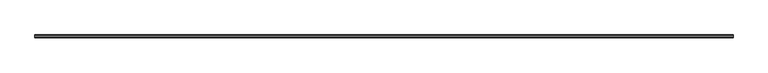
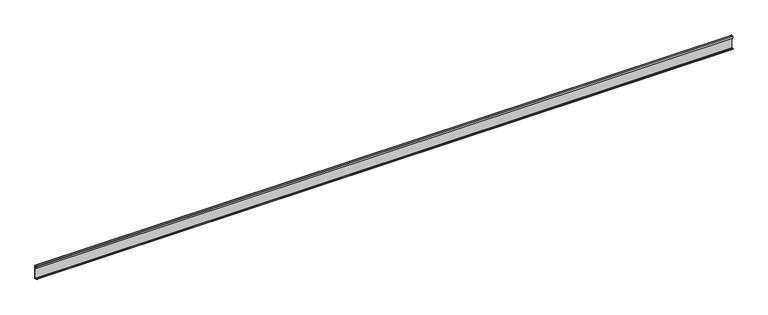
"""IFC4 building model written with IfcOpenShell, lengths in millimetres: proxy geometry, Weiku - Montante - Capa de folha 02.3.02.406 : Weiku - Montante - Capa de folha 02.3.02.406."""

from ifc_helpers import new_model, si_unit, point, frame, frame_2d, origin, place, context, project, spatial, polyline, circle_curve, trimmed, segment, composite_curve, outline, extrude, source, transform, mapped, element, save


def generic_models_7bdc018a(model_context):
    return source(origin(), model_context, "Body", "SweptSolid", [
        extrude(outline(composite_curve([segment(polyline([(-4.6421508, 2.2715508), (-3.3866, 1.016), (-1.6933, 1.016), (-1.6933, 25.684), (-3.3063, 25.684), (-3.3063, 22.3396), (-4.28, 22.3396), (-4.28, 26.2)]), True, "CONTINUOUS"), segment(trimmed(circle_curve(frame_2d((-3.78, 26.2)), 0.5), [point((-4.28, 26.2))], [point((-3.78, 26.7))], False, "CARTESIAN"), True, "CONTINUOUS"), segment(polyline([(-3.78, 26.7), (-0.5, 26.7)]), True, "CONTINUOUS"), segment(trimmed(circle_curve(frame_2d((-0.5, 26.2)), 0.5), [point((-0.5, 26.7))], [point((0.0, 26.2))], False, "CARTESIAN"), True, "CONTINUOUS"), segment(polyline([(0.0, 26.2), (0.0, 0.5)]), True, "CONTINUOUS"), segment(trimmed(circle_curve(frame_2d((-0.5, 0.5)), 0.5), [point((0.0, 0.5))], [point((-0.5, 0.0))], False, "CARTESIAN"), True, "CONTINUOUS"), segment(polyline([(-0.5, 0.0), (-4.7576991, 0.0)]), True, "CONTINUOUS"), segment(trimmed(circle_curve(frame_2d((-4.7576991, 0.7)), 0.7), [point((-4.7576991, 0.0))], [point((-5.3603515, 1.056104))], False, "CARTESIAN"), True, "CONTINUOUS"), segment(polyline([(-5.3603515, 1.056104), (-4.6421508, 2.2715508)]), True, "CONTINUOUS")], self_intersect=False)), frame((-680.5, 0.0, 0.0), z_axis=(1.0, 0.0, 0.0), x_axis=(0.0, 1.0, 0.0)), (0.0, 0.0, 1.0), 1361.0),
    ])


if __name__ == "__main__":
    model = new_model("IFC4")
    model_context = context("Model", 3, world=origin())
    ifc_project = project(units=[si_unit("LENGTHUNIT", "METRE", prefix="MILLI")], contexts=[model_context])
    site = spatial("IfcSite", under=ifc_project)
    building = spatial("IfcBuilding", under=site)
    placement = place(None, origin())
    generic_models_shape = generic_models_7bdc018a(model_context)
    element("IfcBuildingElementProxy", 1, Name="Weiku - Montante - Capa de folha 02.3.02.406 : Weiku - Montante - Capa de folha 02.3.02.406", ObjectType="Weiku - Montante - Capa de folha 02.3.02.406 : Weiku - Montante - Capa de folha 02.3.02.406", at=placement, inside=building, context=model_context, shape_type="MappedRepresentation", body=[
        mapped(generic_models_shape, transform((0.0, 0.0, 0.0), x_axis=(1.0, 0.0, 0.0), y_axis=(0.0, 1.0, 0.0), z_axis=(0.0, 0.0, 1.0))),
    ])
    save(model, "model.ifc")
